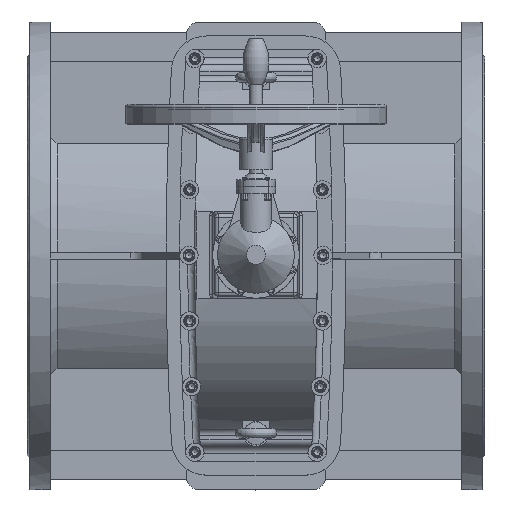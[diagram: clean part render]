
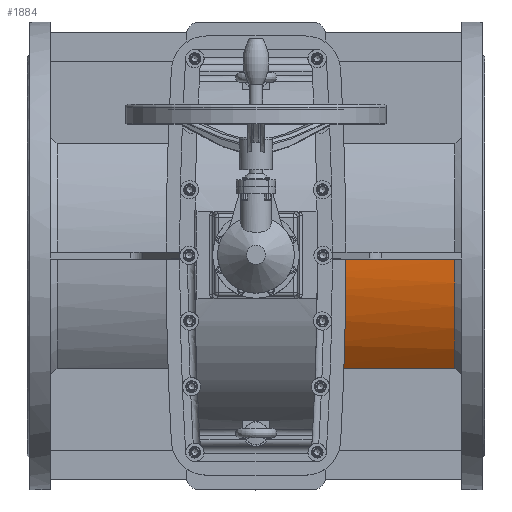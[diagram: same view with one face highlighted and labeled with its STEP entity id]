
A CAD part, top view. The second image highlights one B-rep face of the part: STEP entity #1884.
In plain terms, the highlighted cylindrical face has radius 260.5 mm (diameter 521 mm), a partial arc.
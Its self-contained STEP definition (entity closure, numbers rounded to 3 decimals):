
#1884=ADVANCED_FACE('',(#7110),#7112,.T.);
#7110=FACE_BOUND('',#7111,.T.);
#7111=EDGE_LOOP('',(#30611,#30612,#30613,#30614));
#7112=CYLINDRICAL_SURFACE('',#7113,260.5);
#7113=AXIS2_PLACEMENT_3D('',#7114,#7115,#7116);
#7114=CARTESIAN_POINT('',(314.5,0.,0.));
#7115=DIRECTION('',(-1.,0.,0.));
#7116=DIRECTION('',(0.,1.,0.));
#30611=ORIENTED_EDGE('',*,*,#36572,.F.);
#30612=ORIENTED_EDGE('',*,*,#36566,.T.);
#30613=ORIENTED_EDGE('',*,*,#36560,.F.);
#30614=ORIENTED_EDGE('',*,*,#37189,.T.);
#36560=EDGE_CURVE('',#39909,#39911,#39912,.F.);
#36566=EDGE_CURVE('',#39919,#39911,#39921,.T.);
#36572=EDGE_CURVE('',#39919,#39932,#39933,.T.);
#37189=EDGE_CURVE('',#39909,#39932,#41032,.F.);
#39909=VERTEX_POINT('',#46480);
#39911=VERTEX_POINT('',#46484);
#39912=LINE('',#46485,#46486);
#39919=VERTEX_POINT('',#46510);
#39921=CIRCLE('',#46521,260.5);
#39932=VERTEX_POINT('',#46547);
#39933=LINE('',#46548,#46549);
#41032=B_SPLINE_CURVE_WITH_KNOTS('',3,
(#52122,#52123,#52124,#52125,#52126,#52127,#52128,#52129,#52130,#52131,#52132,#52133,
#52134,#52135,#52136,#52137,#52138,#52139,#52140,#52141,#52142,#52143,#52144,#52145,
#52146,#52147,#52148,#52149,#52150,#52151,#52152,#52153,#52154,#52155,#52156,#52157),
.UNSPECIFIED.,.F.,.F.,
(4,1,1,1,1,1,1,1,1,1,1,1,1,1,1,1,1,1,1,1,1,1,1,1,1,1,1,1,1,1,1,1,1,4),
(0.,0.019,0.037,0.056,0.075,
0.095,0.115,0.136,0.157,0.178,
0.201,0.227,0.255,0.285,0.33,
0.378,0.427,0.464,0.502,0.553,
0.603,0.652,0.685,0.717,0.747,
0.775,0.801,0.827,0.853,0.878,
0.903,0.927,0.96,1.),
.UNSPECIFIED.);
#46480=CARTESIAN_POINT('',(93.718,-5.25,260.447));
#46484=CARTESIAN_POINT('',(304.,-5.25,260.447));
#46485=CARTESIAN_POINT('',(304.,-5.25,260.447));
#46486=VECTOR('',#46487,1.);
#46487=DIRECTION('',(-1.,0.,0.));
#46510=CARTESIAN_POINT('',(304.,-171.912,195.72));
#46521=AXIS2_PLACEMENT_3D('',#46522,#46523,#46524);
#46522=CARTESIAN_POINT('',(304.,0.,0.));
#46523=DIRECTION('',(-1.,0.,0.));
#46524=DIRECTION('',(0.,-0.66,0.751));
#46547=CARTESIAN_POINT('',(86.353,-171.912,195.72));
#46548=CARTESIAN_POINT('',(304.,-171.912,195.72));
#46549=VECTOR('',#46550,1.);
#46550=DIRECTION('',(-1.,0.,0.));
#52122=CARTESIAN_POINT('',(86.353,-171.912,195.72));
#52123=CARTESIAN_POINT('',(86.425,-171.064,196.465));
#52124=CARTESIAN_POINT('',(86.571,-169.351,197.95));
#52125=CARTESIAN_POINT('',(86.79,-166.742,200.153));
#52126=CARTESIAN_POINT('',(87.009,-164.071,202.349));
#52127=CARTESIAN_POINT('',(87.231,-161.333,204.538));
#52128=CARTESIAN_POINT('',(87.456,-158.507,206.737));
#52129=CARTESIAN_POINT('',(87.683,-155.59,208.942));
#52130=CARTESIAN_POINT('',(87.915,-152.561,211.164));
#52131=CARTESIAN_POINT('',(88.149,-149.437,213.386));
#52132=CARTESIAN_POINT('',(88.391,-146.14,215.659));
#52133=CARTESIAN_POINT('',(88.644,-142.609,218.012));
#52134=CARTESIAN_POINT('',(88.919,-138.68,220.536));
#52135=CARTESIAN_POINT('',(89.212,-134.361,223.197));
#52136=CARTESIAN_POINT('',(89.569,-128.924,226.395));
#52137=CARTESIAN_POINT('',(89.978,-122.398,230.006));
#52138=CARTESIAN_POINT('',(90.432,-114.72,233.935));
#52139=CARTESIAN_POINT('',(90.838,-107.353,237.395));
#52140=CARTESIAN_POINT('',(91.197,-100.419,240.399));
#52141=CARTESIAN_POINT('',(91.543,-93.303,243.263));
#52142=CARTESIAN_POINT('',(91.898,-85.383,246.167));
#52143=CARTESIAN_POINT('',(92.25,-76.715,249.002));
#52144=CARTESIAN_POINT('',(92.531,-68.973,251.241));
#52145=CARTESIAN_POINT('',(92.752,-62.213,252.986));
#52146=CARTESIAN_POINT('',(92.92,-56.573,254.304));
#52147=CARTESIAN_POINT('',(93.065,-51.245,255.428));
#52148=CARTESIAN_POINT('',(93.187,-46.255,256.376));
#52149=CARTESIAN_POINT('',(93.293,-41.448,257.196));
#52150=CARTESIAN_POINT('',(93.385,-36.762,257.907));
#52151=CARTESIAN_POINT('',(93.466,-32.119,258.526));
#52152=CARTESIAN_POINT('',(93.535,-27.542,259.053));
#52153=CARTESIAN_POINT('',(93.593,-23.01,259.495));
#52154=CARTESIAN_POINT('',(93.645,-18.04,259.892));
#52155=CARTESIAN_POINT('',(93.691,-12.123,260.246));
#52156=CARTESIAN_POINT('',(93.711,-7.701,260.398));
#52157=CARTESIAN_POINT('',(93.718,-5.25,260.447));
